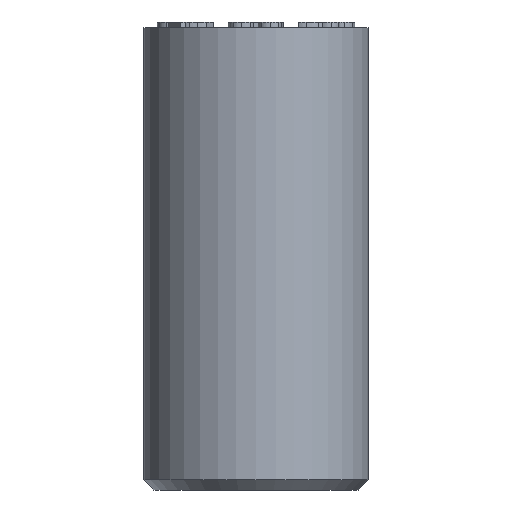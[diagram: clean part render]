
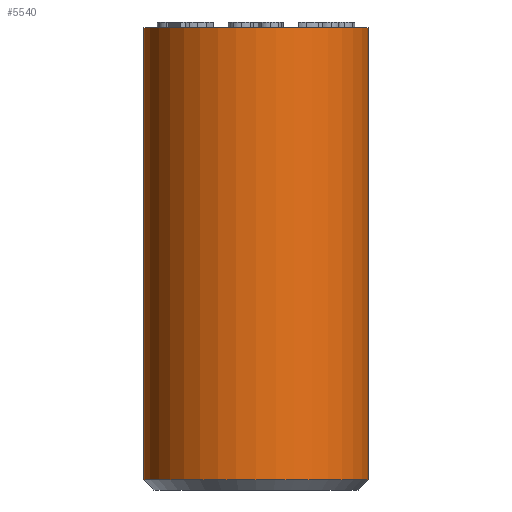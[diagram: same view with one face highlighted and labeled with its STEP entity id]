
A CAD part, front view. The second image highlights one B-rep face of the part: STEP entity #5540.
In plain terms, the highlighted cylindrical face has radius 6 mm (diameter 12 mm), a full revolution.
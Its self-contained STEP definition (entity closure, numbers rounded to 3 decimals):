
#22=CYLINDRICAL_SURFACE('',#5642,6.);
#24=CIRCLE('',#5561,6.);
#33=CIRCLE('',#5638,6.);
#426=FACE_OUTER_BOUND('',#751,.T.);
#751=EDGE_LOOP('',(#4994,#4995,#4996,#4997));
#1120=LINE('',#11745,#1488);
#1488=VECTOR('',#6184,6.);
#1986=VERTEX_POINT('',#6665);
#2497=VERTEX_POINT('',#11736);
#2564=EDGE_CURVE('',#1986,#1986,#24,.T.);
#3330=EDGE_CURVE('',#2497,#2497,#33,.T.);
#3334=EDGE_CURVE('',#1986,#2497,#1120,.T.);
#4994=ORIENTED_EDGE('',*,*,#2564,.F.);
#4995=ORIENTED_EDGE('',*,*,#3334,.T.);
#4996=ORIENTED_EDGE('',*,*,#3330,.F.);
#4997=ORIENTED_EDGE('',*,*,#3334,.F.);
#5540=ADVANCED_FACE('',(#426),#22,.T.);
#5561=AXIS2_PLACEMENT_3D('',#6666,#5676,#5677);
#5638=AXIS2_PLACEMENT_3D('',#11737,#6173,#6174);
#5642=AXIS2_PLACEMENT_3D('',#11744,#6182,#6183);
#5676=DIRECTION('center_axis',(0.,0.,1.));
#5677=DIRECTION('ref_axis',(1.,0.,0.));
#6173=DIRECTION('center_axis',(0.,0.,-1.));
#6174=DIRECTION('ref_axis',(1.,0.,0.));
#6182=DIRECTION('center_axis',(0.,0.,1.));
#6183=DIRECTION('ref_axis',(1.,0.,0.));
#6184=DIRECTION('',(0.,0.,-1.));
#6665=CARTESIAN_POINT('',(-6.,0.,24.7));
#6666=CARTESIAN_POINT('Origin',(0.,0.,24.7));
#11736=CARTESIAN_POINT('',(-6.,0.,0.55));
#11737=CARTESIAN_POINT('Origin',(0.,0.,0.55));
#11744=CARTESIAN_POINT('Origin',(0.,0.,0.));
#11745=CARTESIAN_POINT('',(-6.,0.,0.));
